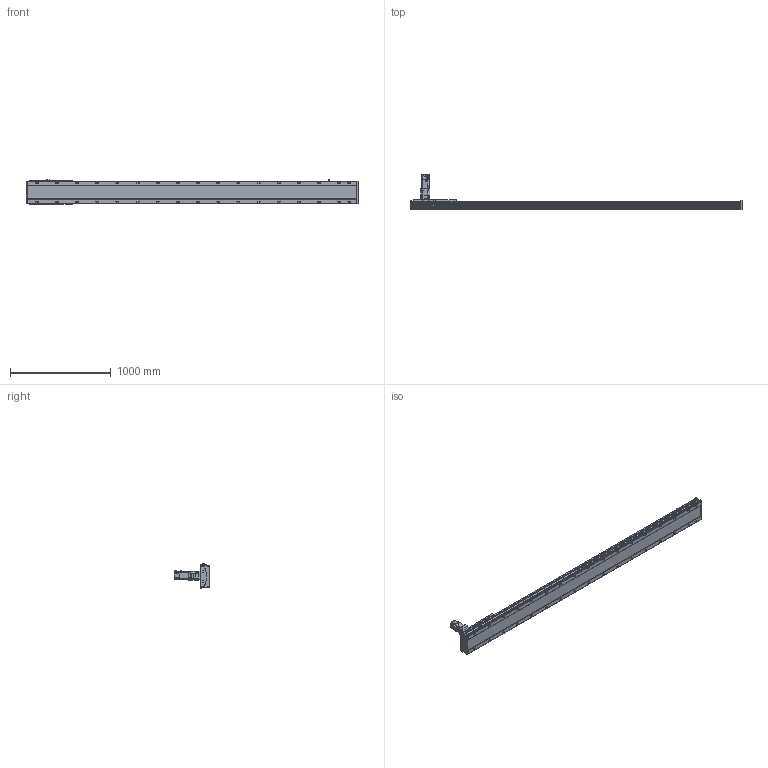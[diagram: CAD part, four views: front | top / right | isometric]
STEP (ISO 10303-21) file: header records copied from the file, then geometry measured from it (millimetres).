
FILE_DESCRIPTION(/* description */ ('STEP AP214'),/* implementation_level */ '2;1');
FILE_NAME(/* name */ 'SHS22A-L13-S2800-BC-T75-C1-N(0)',/* time_stamp */ '2022-06-15T02:27:46+02:00',/* author */ ('License CC BY-ND 4.0'),/* organization */ ('CADENAS'),/* preprocessor_version */ 'ST-DEVELOPER v18.102',/* originating_system */ 'PARTsolutions',/* authorisation */ ' ');
FILE_SCHEMA (('AUTOMOTIVE_DESIGN {1 0 10303 214 3 1 1}'));
Length unit declared in the file: millimetre
Products named in the file (7): SHS22A-L13-S2800-BC-T75-C1-N(0); PSC140-sensor; SHS22A-S2800_body2; T75-p1; SHS22A-S2800_body3; SHS22A-S2800_slider; SHS22A-L13-S2800-BC-T75-C1(0)_body
Assembly tree (13 placements, depth 2):
  SHS22A-L13-S2800-BC-T75-C1-N(0)
    PSC140-sensor  x3
    SHS22A-S2800_body2  x6
    T75-p1
    SHS22A-S2800_body3
    SHS22A-S2800_slider
    SHS22A-L13-S2800-BC-T75-C1(0)_body
Bounding box: 3294 x 350.8 x 238.4 mm (x, y, z)
Volume: 36159097.2 mm3; surface area: 3738025.7 mm2
Topology: 13 solids, 13 shells, 1905 faces, 4891 edges, 3202 vertices
Faces by surface type: plane 1348, cylinder 449, cone 99, torus 9
Full cylindrical faces by diameter (mm): 2.8 x3, 4.2 x2, 4.6 x3, 4.917 x4, 5 x4, 5.6 x24, 6 x31, 6.6 x24, 6.647 x8, 6.8 x9, 7.75 x6, 8 x3, 8.376 x34, 8.5 x34, 10 x4, 11 x4, 12 x24, 14 x34, 22 x1, 24.1 x1, 28 x1, 28.2 x1, 28.8 x1, 48.542 x1, 68 x1, 70 x1, 78 x1, 80 x2
Entity records: 31907 total; most frequent: CARTESIAN_POINT 5735, DIRECTION 5405, ORIENTED_EDGE 4872, EDGE_CURVE 2436, AXIS2_PLACEMENT_3D 1914, VERTEX_POINT 1758, FACE_BOUND 1682, EDGE_LOOP 1681
